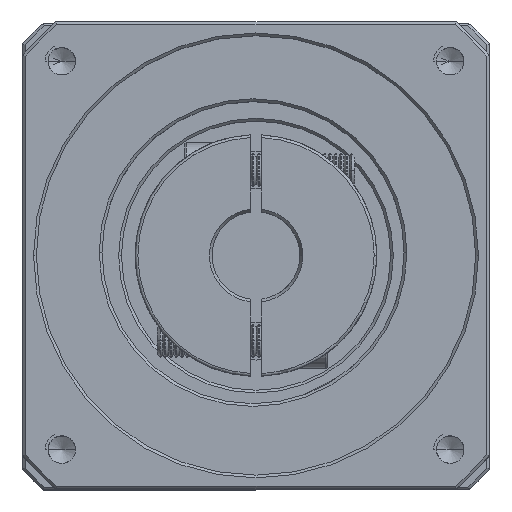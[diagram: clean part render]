
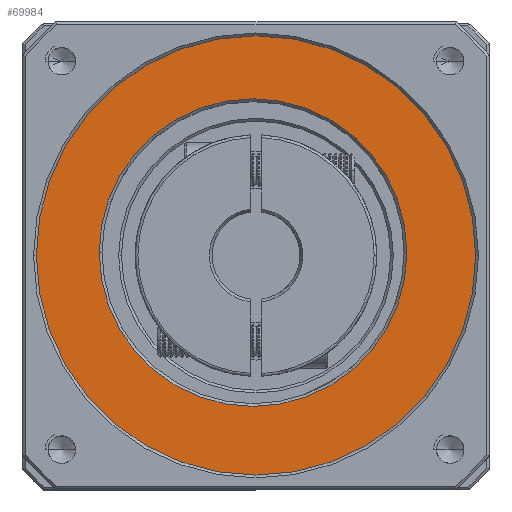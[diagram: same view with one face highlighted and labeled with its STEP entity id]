
A CAD part, top view. The second image highlights one B-rep face of the part: STEP entity #69984.
In plain terms, the highlighted planar face has unit normal (0, 0, 1).
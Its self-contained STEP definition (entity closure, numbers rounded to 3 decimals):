
#8002 = DIRECTION ( 'NONE',  ( 1., 0., 0. ) ) ;
#9922 = ORIENTED_EDGE ( 'NONE', *, *, #73713, .T. ) ;
#14807 = CARTESIAN_POINT ( 'NONE',  ( -121.15, 42.371, 120.185 ) ) ;
#15423 = CIRCLE ( 'NONE', #74205, 28. ) ;
#17801 = DIRECTION ( 'NONE',  ( 1., 0., 0. ) ) ;
#20381 = CARTESIAN_POINT ( 'NONE',  ( -81.692, 42.906, 120.185 ) ) ;
#31048 = AXIS2_PLACEMENT_3D ( 'NONE', #33943, #111312, #8002 ) ;
#33943 = CARTESIAN_POINT ( 'NONE',  ( -81.15, 42.371, 120.185 ) ) ;
#38012 = DIRECTION ( 'NONE',  ( 0., 0., 1. ) ) ;
#38150 = FACE_BOUND ( 'NONE', #50629, .T. ) ;
#38460 = DIRECTION ( 'NONE',  ( 1., 0., 0. ) ) ;
#43813 = PLANE ( 'NONE',  #31048 ) ;
#44311 = FACE_OUTER_BOUND ( 'NONE', #84677, .T. ) ;
#50629 = EDGE_LOOP ( 'NONE', ( #101261, #87078 ) ) ;
#54902 = EDGE_CURVE ( 'NONE', #76988, #73450, #60492, .T. ) ;
#55331 = AXIS2_PLACEMENT_3D ( 'NONE', #20381, #59793, #88812 ) ;
#56108 = DIRECTION ( 'NONE',  ( 0., 0., 1. ) ) ;
#57577 = EDGE_CURVE ( 'NONE', #108763, #102398, #73138, .T. ) ;
#59793 = DIRECTION ( 'NONE',  ( 0., 0., -1. ) ) ;
#60492 = CIRCLE ( 'NONE', #105985, 40. ) ;
#65931 = DIRECTION ( 'NONE',  ( 1., 0., 0. ) ) ;
#66350 = CARTESIAN_POINT ( 'NONE',  ( -81.15, 42.371, 120.185 ) ) ;
#68029 = ORIENTED_EDGE ( 'NONE', *, *, #54902, .T. ) ;
#69984 = ADVANCED_FACE ( 'NONE', ( #44311, #38150 ), #43813, .T. ) ;
#70758 = CIRCLE ( 'NONE', #119982, 40. ) ;
#73138 = CIRCLE ( 'NONE', #55331, 28. ) ;
#73450 = VERTEX_POINT ( 'NONE', #118534 ) ;
#73713 = EDGE_CURVE ( 'NONE', #73450, #76988, #70758, .T. ) ;
#74205 = AXIS2_PLACEMENT_3D ( 'NONE', #107153, #87098, #17801 ) ;
#76988 = VERTEX_POINT ( 'NONE', #14807 ) ;
#84167 = EDGE_CURVE ( 'NONE', #102398, #108763, #15423, .T. ) ;
#84677 = EDGE_LOOP ( 'NONE', ( #9922, #68029 ) ) ;
#86244 = CARTESIAN_POINT ( 'NONE',  ( -109.692, 42.906, 120.185 ) ) ;
#87078 = ORIENTED_EDGE ( 'NONE', *, *, #57577, .T. ) ;
#87098 = DIRECTION ( 'NONE',  ( 0., 0., -1. ) ) ;
#88006 = CARTESIAN_POINT ( 'NONE',  ( -81.15, 42.371, 120.185 ) ) ;
#88812 = DIRECTION ( 'NONE',  ( 1., 0., 0. ) ) ;
#99619 = CARTESIAN_POINT ( 'NONE',  ( -53.692, 42.906, 120.185 ) ) ;
#101261 = ORIENTED_EDGE ( 'NONE', *, *, #84167, .T. ) ;
#102398 = VERTEX_POINT ( 'NONE', #99619 ) ;
#105985 = AXIS2_PLACEMENT_3D ( 'NONE', #66350, #56108, #65931 ) ;
#107153 = CARTESIAN_POINT ( 'NONE',  ( -81.692, 42.906, 120.185 ) ) ;
#108763 = VERTEX_POINT ( 'NONE', #86244 ) ;
#111312 = DIRECTION ( 'NONE',  ( 0., 0., 1. ) ) ;
#118534 = CARTESIAN_POINT ( 'NONE',  ( -41.15, 42.371, 120.185 ) ) ;
#119982 = AXIS2_PLACEMENT_3D ( 'NONE', #88006, #38012, #38460 ) ;
